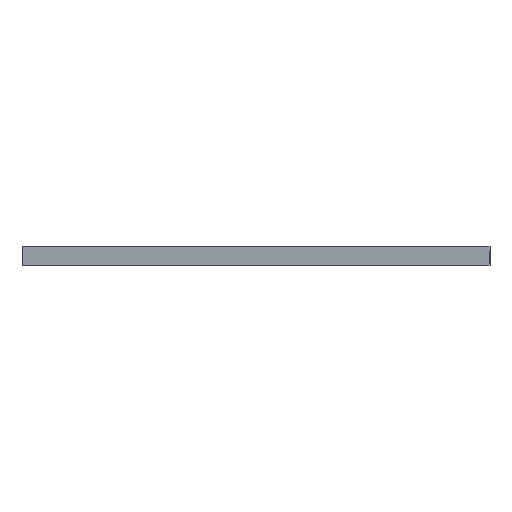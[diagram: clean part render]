
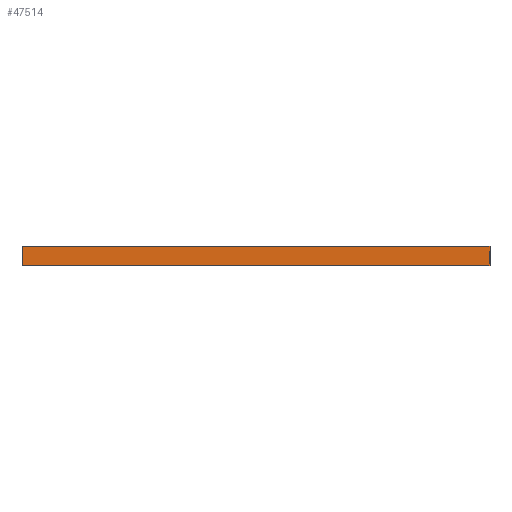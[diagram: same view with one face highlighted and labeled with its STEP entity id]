
A CAD part, front view. The second image highlights one B-rep face of the part: STEP entity #47514.
In plain terms, the highlighted planar face has unit normal (0, -1, 0).
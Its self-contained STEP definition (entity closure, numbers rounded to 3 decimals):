
#3518 = LINE ( 'NONE', #51009, #62807 ) ;
#5679 = CARTESIAN_POINT ( 'NONE',  ( -12., 0., 0.5 ) ) ;
#8266 = ORIENTED_EDGE ( 'NONE', *, *, #40168, .T. ) ;
#8276 = CARTESIAN_POINT ( 'NONE',  ( -12., 0., 0. ) ) ;
#9339 = EDGE_LOOP ( 'NONE', ( #8266, #68453, #10193, #29419 ) ) ;
#10193 = ORIENTED_EDGE ( 'NONE', *, *, #46343, .F. ) ;
#15098 = CARTESIAN_POINT ( 'NONE',  ( -12., 0., 0.5 ) ) ;
#17473 = DIRECTION ( 'NONE',  ( -1., 0., 0. ) ) ;
#25861 = LINE ( 'NONE', #15098, #26617 ) ;
#26617 = VECTOR ( 'NONE', #61486, 1000. ) ;
#29419 = ORIENTED_EDGE ( 'NONE', *, *, #52959, .T. ) ;
#29970 = LINE ( 'NONE', #32128, #51346 ) ;
#32031 = DIRECTION ( 'NONE',  ( 1., 0., 0. ) ) ;
#32128 = CARTESIAN_POINT ( 'NONE',  ( -12., 0., 0.5 ) ) ;
#33561 = CARTESIAN_POINT ( 'NONE',  ( 0., 0., 0.5 ) ) ;
#33979 = DIRECTION ( 'NONE',  ( 0., 1., 0. ) ) ;
#34182 = VERTEX_POINT ( 'NONE', #33561 ) ;
#35727 = EDGE_CURVE ( 'NONE', #34182, #61443, #3518, .T. ) ;
#38246 = DIRECTION ( 'NONE',  ( 0., 0., -1. ) ) ;
#40168 = EDGE_CURVE ( 'NONE', #60232, #61443, #60394, .T. ) ;
#44445 = PLANE ( 'NONE',  #60867 ) ;
#45184 = VERTEX_POINT ( 'NONE', #5679 ) ;
#45665 = DIRECTION ( 'NONE',  ( 0., 0., -1. ) ) ;
#46343 = EDGE_CURVE ( 'NONE', #45184, #34182, #25861, .T. ) ;
#46630 = FACE_OUTER_BOUND ( 'NONE', #9339, .T. ) ;
#47514 = ADVANCED_FACE ( 'NONE', ( #46630 ), #44445, .F. ) ;
#51009 = CARTESIAN_POINT ( 'NONE',  ( 0., 0., 0.5 ) ) ;
#51346 = VECTOR ( 'NONE', #38246, 1000. ) ;
#52959 = EDGE_CURVE ( 'NONE', #45184, #60232, #29970, .T. ) ;
#60232 = VERTEX_POINT ( 'NONE', #64770 ) ;
#60394 = LINE ( 'NONE', #8276, #68986 ) ;
#60867 = AXIS2_PLACEMENT_3D ( 'NONE', #64248, #33979, #17473 ) ;
#61443 = VERTEX_POINT ( 'NONE', #68164 ) ;
#61486 = DIRECTION ( 'NONE',  ( 1., 0., 0. ) ) ;
#62807 = VECTOR ( 'NONE', #45665, 1000. ) ;
#64248 = CARTESIAN_POINT ( 'NONE',  ( -12., 0., 0.5 ) ) ;
#64770 = CARTESIAN_POINT ( 'NONE',  ( -12., 0., 0. ) ) ;
#68164 = CARTESIAN_POINT ( 'NONE',  ( 0., 0., 0. ) ) ;
#68453 = ORIENTED_EDGE ( 'NONE', *, *, #35727, .F. ) ;
#68986 = VECTOR ( 'NONE', #32031, 1000. ) ;
